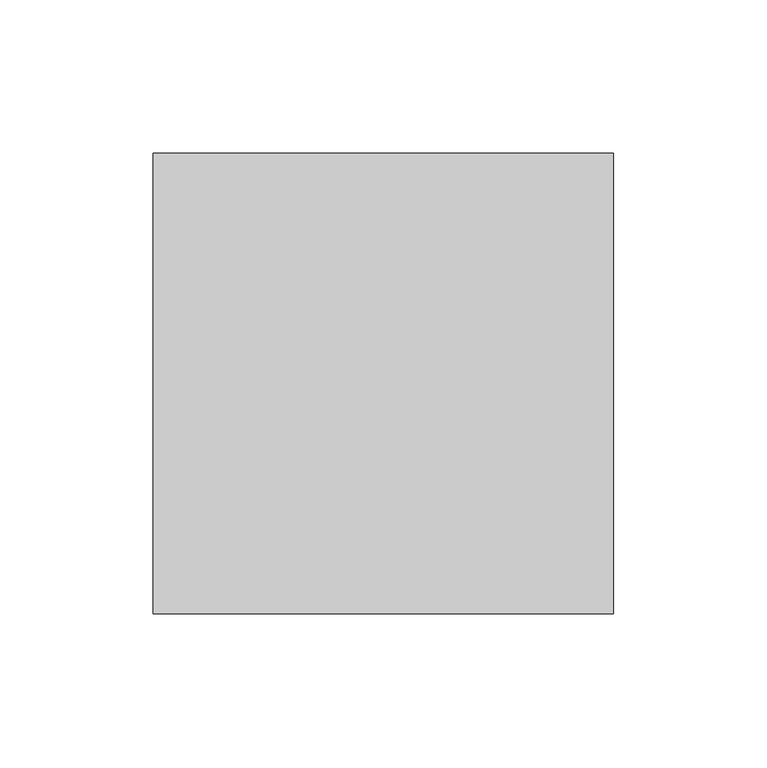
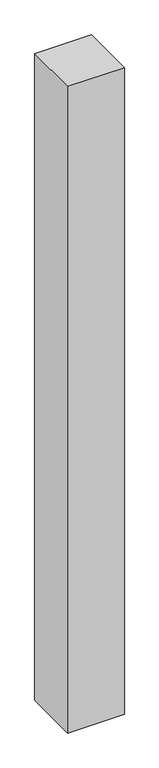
"""IFC4 building model written with IfcOpenShell, lengths in millimetres: proxy geometry, Брус : 150х150."""

from ifc_helpers import new_model, si_unit, origin, origin_with_axes, place, context, project, spatial, polyline, outline, extrude, source, transform, mapped, element, save


def generic_models_431289df(model_context):
    return source(origin(), model_context, "Body", "SweptSolid", [
        extrude(outline(polyline([(150.0, 0.0), (0.0, 0.0), (0.0, 150.0), (150.0, 150.0), (150.0, 0.0)])), origin_with_axes(), (0.0, 0.0, 1.0), 1805.0),
    ])


if __name__ == "__main__":
    model = new_model("IFC4")
    model_context = context("Model", 3, world=origin())
    ifc_project = project(units=[si_unit("LENGTHUNIT", "METRE", prefix="MILLI")], contexts=[model_context])
    site = spatial("IfcSite", under=ifc_project)
    building = spatial("IfcBuilding", under=site)
    placement = place(None, origin())
    generic_models_shape = generic_models_431289df(model_context)
    element("IfcBuildingElementProxy", 1, Name="Брус : 150х150", ObjectType="Брус : 150х150", at=placement, inside=building, context=model_context, shape_type="MappedRepresentation", body=[
        mapped(generic_models_shape, transform((0.0, 0.0, 0.0), x_axis=(1.0, 0.0, 0.0), y_axis=(0.0, 1.0, 0.0), z_axis=(0.0, 0.0, 1.0))),
    ])
    save(model, "model.ifc")
